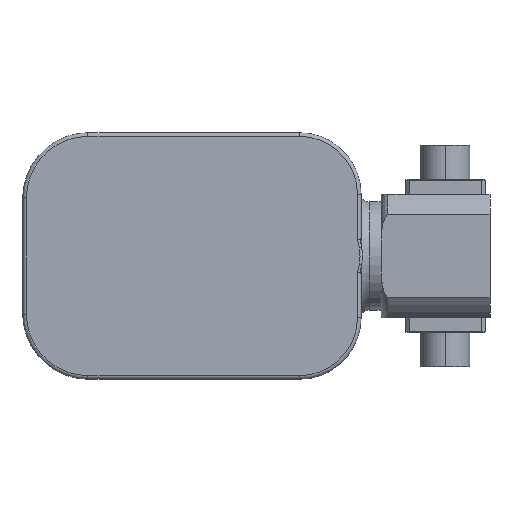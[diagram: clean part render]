
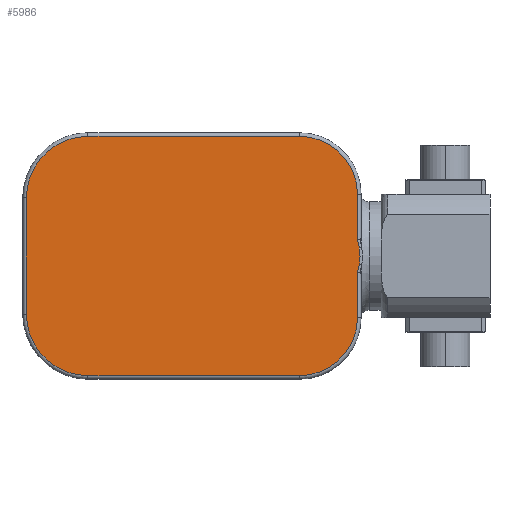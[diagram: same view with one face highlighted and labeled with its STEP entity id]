
A CAD part, left-side view. The second image highlights one B-rep face of the part: STEP entity #5986.
In plain terms, the highlighted planar face has unit normal (-1, 0, 0).
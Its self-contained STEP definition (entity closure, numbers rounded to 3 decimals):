
#73 = EDGE_CURVE ( 'NONE', #3898, #1686, #3473, .T. ) ;
#100 = CARTESIAN_POINT ( 'NONE',  ( -15.92, 48.037, -2.213 ) ) ;
#121 = AXIS2_PLACEMENT_3D ( 'NONE', #6884, #6460, #6356 ) ;
#186 = DIRECTION ( 'NONE',  ( 0., 0., 1. ) ) ;
#231 = CARTESIAN_POINT ( 'NONE',  ( -15.92, 48.553, 4.442 ) ) ;
#236 = CARTESIAN_POINT ( 'NONE',  ( -15.92, 48.553, -34. ) ) ;
#243 = EDGE_CURVE ( 'NONE', #2367, #1607, #2677, .T. ) ;
#248 = CARTESIAN_POINT ( 'NONE',  ( -15.92, 48.329, 3.707 ) ) ;
#323 = CARTESIAN_POINT ( 'NONE',  ( -15.92, 48.155, 2.965 ) ) ;
#326 = VECTOR ( 'NONE', #186, 1000. ) ;
#400 = ORIENTED_EDGE ( 'NONE', *, *, #3502, .T. ) ;
#696 = CARTESIAN_POINT ( 'NONE',  ( -15.92, 48.037, 2.213 ) ) ;
#785 = DIRECTION ( 'NONE',  ( 0., 0., 1. ) ) ;
#795 = CARTESIAN_POINT ( 'NONE',  ( -15.92, 48.553, -34. ) ) ;
#807 = CIRCLE ( 'NONE', #121, 17. ) ;
#894 = CARTESIAN_POINT ( 'NONE',  ( -15.92, 139.903, -16. ) ) ;
#895 = VERTEX_POINT ( 'NONE', #1029 ) ;
#1029 = CARTESIAN_POINT ( 'NONE',  ( -15.92, 48.037, 2.213 ) ) ;
#1099 = ORIENTED_EDGE ( 'NONE', *, *, #3803, .T. ) ;
#1244 = PLANE ( 'NONE',  #1659 ) ;
#1462 = AXIS2_PLACEMENT_3D ( 'NONE', #3287, #3313, #4577 ) ;
#1565 = LINE ( 'NONE', #2688, #5583 ) ;
#1607 = VERTEX_POINT ( 'NONE', #4338 ) ;
#1611 = EDGE_CURVE ( 'NONE', #6119, #6364, #6042, .T. ) ;
#1612 = CARTESIAN_POINT ( 'NONE',  ( -15.92, 48.553, -4.442 ) ) ;
#1659 = AXIS2_PLACEMENT_3D ( 'NONE', #5977, #6514, #3358 ) ;
#1686 = VERTEX_POINT ( 'NONE', #4002 ) ;
#1690 = VERTEX_POINT ( 'NONE', #4021 ) ;
#1738 = EDGE_CURVE ( 'NONE', #6364, #895, #2398, .T. ) ;
#1820 = CARTESIAN_POINT ( 'NONE',  ( -15.92, 139.903, 16. ) ) ;
#1856 = VECTOR ( 'NONE', #4301, 1000. ) ;
#1859 = DIRECTION ( 'NONE',  ( 0., 0., 1. ) ) ;
#2022 = CARTESIAN_POINT ( 'NONE',  ( -15.92, 48.553, 17. ) ) ;
#2126 = VERTEX_POINT ( 'NONE', #894 ) ;
#2140 = LINE ( 'NONE', #236, #326 ) ;
#2148 = EDGE_CURVE ( 'NONE', #4903, #3898, #2977, .T. ) ;
#2183 = ORIENTED_EDGE ( 'NONE', *, *, #2686, .T. ) ;
#2279 = ORIENTED_EDGE ( 'NONE', *, *, #1611, .T. ) ;
#2367 = VERTEX_POINT ( 'NONE', #2529 ) ;
#2398 = B_SPLINE_CURVE_WITH_KNOTS ( 'NONE', 3,
 ( #3751, #3782, #3677, #3675, #3667 ),
 .UNSPECIFIED., .F., .F.,
 ( 4, 1, 4 ),
 ( 0., 0.002, 0.004 ),
 .UNSPECIFIED. ) ;
#2446 = ORIENTED_EDGE ( 'NONE', *, *, #243, .T. ) ;
#2506 = ORIENTED_EDGE ( 'NONE', *, *, #3100, .T. ) ;
#2529 = CARTESIAN_POINT ( 'NONE',  ( -15.92, 64.553, -33. ) ) ;
#2677 = CIRCLE ( 'NONE', #4054, 16. ) ;
#2686 = EDGE_CURVE ( 'NONE', #1690, #6457, #2970, .T. ) ;
#2688 = CARTESIAN_POINT ( 'NONE',  ( -15.92, 139.903, -34. ) ) ;
#2930 = ORIENTED_EDGE ( 'NONE', *, *, #1738, .T. ) ;
#2970 = CIRCLE ( 'NONE', #1462, 17. ) ;
#2977 = LINE ( 'NONE', #795, #4188 ) ;
#3038 = EDGE_LOOP ( 'NONE', ( #6701, #2183, #4149, #4404, #1099, #2446, #400, #2279, #2930, #2506, #3492, #3355 ) ) ;
#3100 = EDGE_CURVE ( 'NONE', #895, #4903, #6168, .T. ) ;
#3287 = CARTESIAN_POINT ( 'NONE',  ( -15.92, 122.903, 16. ) ) ;
#3313 = DIRECTION ( 'NONE',  ( -1., 0., 0. ) ) ;
#3355 = ORIENTED_EDGE ( 'NONE', *, *, #73, .T. ) ;
#3358 = DIRECTION ( 'NONE',  ( 0., 0., 1. ) ) ;
#3375 = LINE ( 'NONE', #3552, #4949 ) ;
#3449 = FACE_OUTER_BOUND ( 'NONE', #3038, .T. ) ;
#3473 = CIRCLE ( 'NONE', #6649, 16. ) ;
#3492 = ORIENTED_EDGE ( 'NONE', *, *, #2148, .T. ) ;
#3502 = EDGE_CURVE ( 'NONE', #1607, #6119, #2140, .T. ) ;
#3552 = CARTESIAN_POINT ( 'NONE',  ( -15.92, 122.903, 33. ) ) ;
#3667 = CARTESIAN_POINT ( 'NONE',  ( -15.92, 48.037, 2.213 ) ) ;
#3675 = CARTESIAN_POINT ( 'NONE',  ( -15.92, 47.922, 1.475 ) ) ;
#3677 = CARTESIAN_POINT ( 'NONE',  ( -15.92, 47.782, 0. ) ) ;
#3751 = CARTESIAN_POINT ( 'NONE',  ( -15.92, 48.037, -2.213 ) ) ;
#3782 = CARTESIAN_POINT ( 'NONE',  ( -15.92, 47.922, -1.475 ) ) ;
#3803 = EDGE_CURVE ( 'NONE', #6167, #2367, #6020, .T. ) ;
#3833 = CARTESIAN_POINT ( 'NONE',  ( -15.92, 47.553, -33. ) ) ;
#3898 = VERTEX_POINT ( 'NONE', #2022 ) ;
#4002 = CARTESIAN_POINT ( 'NONE',  ( -15.92, 64.553, 33. ) ) ;
#4021 = CARTESIAN_POINT ( 'NONE',  ( -15.92, 122.903, 33. ) ) ;
#4034 = EDGE_CURVE ( 'NONE', #2126, #6167, #807, .T. ) ;
#4054 = AXIS2_PLACEMENT_3D ( 'NONE', #5124, #4898, #1859 ) ;
#4149 = ORIENTED_EDGE ( 'NONE', *, *, #6122, .T. ) ;
#4188 = VECTOR ( 'NONE', #785, 1000. ) ;
#4301 = DIRECTION ( 'NONE',  ( 0., -1., 0. ) ) ;
#4314 = CARTESIAN_POINT ( 'NONE',  ( -15.92, 48.037, -2.213 ) ) ;
#4326 = CARTESIAN_POINT ( 'NONE',  ( -15.92, 48.155, -2.964 ) ) ;
#4327 = CARTESIAN_POINT ( 'NONE',  ( -15.92, 48.33, -3.71 ) ) ;
#4338 = CARTESIAN_POINT ( 'NONE',  ( -15.92, 48.553, -17. ) ) ;
#4403 = CARTESIAN_POINT ( 'NONE',  ( -15.92, 64.553, 17. ) ) ;
#4404 = ORIENTED_EDGE ( 'NONE', *, *, #4034, .T. ) ;
#4507 = CARTESIAN_POINT ( 'NONE',  ( -15.92, 48.553, -4.442 ) ) ;
#4577 = DIRECTION ( 'NONE',  ( 0., 0., 1. ) ) ;
#4781 = CARTESIAN_POINT ( 'NONE',  ( -15.92, 48.553, 4.442 ) ) ;
#4898 = DIRECTION ( 'NONE',  ( -1., 0., 0. ) ) ;
#4903 = VERTEX_POINT ( 'NONE', #4781 ) ;
#4949 = VECTOR ( 'NONE', #5672, 1000. ) ;
#4969 = EDGE_CURVE ( 'NONE', #1686, #1690, #3375, .T. ) ;
#5067 = DIRECTION ( 'NONE',  ( -1., 0., 0. ) ) ;
#5124 = CARTESIAN_POINT ( 'NONE',  ( -15.92, 64.553, -17. ) ) ;
#5583 = VECTOR ( 'NONE', #6599, 1000. ) ;
#5672 = DIRECTION ( 'NONE',  ( 0., 1., 0. ) ) ;
#5754 = DIRECTION ( 'NONE',  ( 0., 0., 1. ) ) ;
#5977 = CARTESIAN_POINT ( 'NONE',  ( -15.92, 47.553, -34. ) ) ;
#5986 = ADVANCED_FACE ( 'NONE', ( #3449 ), #1244, .T. ) ;
#6020 = LINE ( 'NONE', #3833, #1856 ) ;
#6042 = B_SPLINE_CURVE_WITH_KNOTS ( 'NONE', 3,
 ( #4507, #4327, #4326, #4314 ),
 .UNSPECIFIED., .F., .F.,
 ( 4, 4 ),
 ( 0., 0.002 ),
 .UNSPECIFIED. ) ;
#6119 = VERTEX_POINT ( 'NONE', #1612 ) ;
#6122 = EDGE_CURVE ( 'NONE', #6457, #2126, #1565, .T. ) ;
#6167 = VERTEX_POINT ( 'NONE', #6890 ) ;
#6168 = B_SPLINE_CURVE_WITH_KNOTS ( 'NONE', 3,
 ( #696, #323, #248, #231 ),
 .UNSPECIFIED., .F., .F.,
 ( 4, 4 ),
 ( 0.007, 0.009 ),
 .UNSPECIFIED. ) ;
#6356 = DIRECTION ( 'NONE',  ( 0., 0., 1. ) ) ;
#6364 = VERTEX_POINT ( 'NONE', #100 ) ;
#6457 = VERTEX_POINT ( 'NONE', #1820 ) ;
#6460 = DIRECTION ( 'NONE',  ( -1., 0., 0. ) ) ;
#6514 = DIRECTION ( 'NONE',  ( -1., 0., 0. ) ) ;
#6599 = DIRECTION ( 'NONE',  ( 0., 0., -1. ) ) ;
#6649 = AXIS2_PLACEMENT_3D ( 'NONE', #4403, #5067, #5754 ) ;
#6701 = ORIENTED_EDGE ( 'NONE', *, *, #4969, .T. ) ;
#6884 = CARTESIAN_POINT ( 'NONE',  ( -15.92, 122.903, -16. ) ) ;
#6890 = CARTESIAN_POINT ( 'NONE',  ( -15.92, 122.903, -33. ) ) ;
